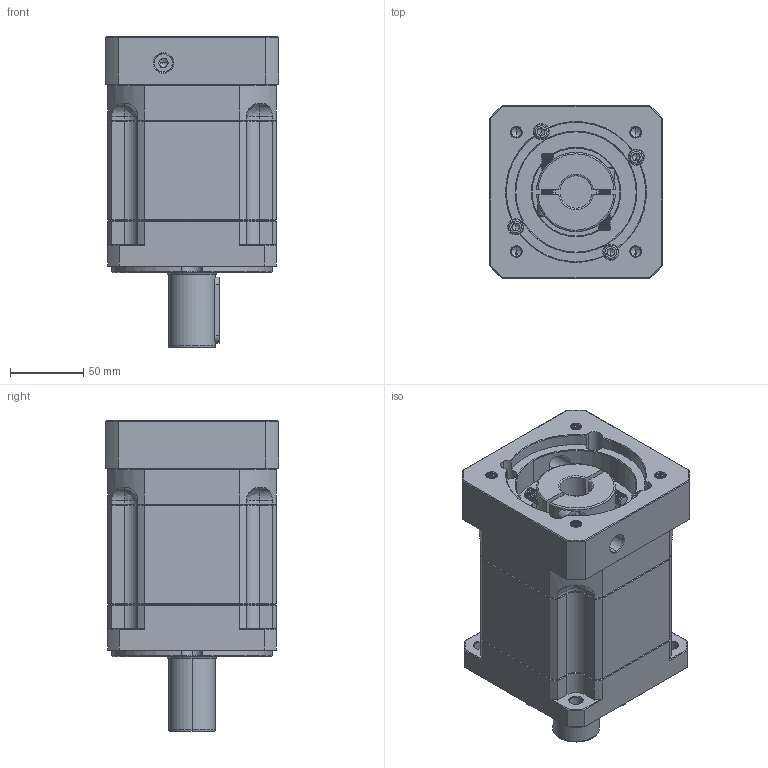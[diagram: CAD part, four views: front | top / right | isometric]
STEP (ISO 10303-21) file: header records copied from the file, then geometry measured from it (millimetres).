
FILE_DESCRIPTION (( 'STEP AP214' ), '1' );
FILE_NAME ('ZB115A-D32-L2-P2-22-95-115-M8.step', '2023-08-26T06:30:48', ( '' ), ( '' ), 'SwSTEP 2.0', 'SolidWorks 2016', '' );
FILE_SCHEMA (( 'AUTOMOTIVE_DESIGN' ));
Length unit declared in the file: millimetre
Products named in the file (1): ZB115A-D32-L2-P2-22-95-115-M8
Bounding box: 118 x 118 x 212 mm (x, y, z)
Volume: 1807797.3 mm3; surface area: 180525.1 mm2
Topology: 6 solids, 6 shells, 2407 faces, 6327 edges, 4016 vertices
Faces by surface type: plane 1144, cylinder 448, bspline 423, cone 372, torus 20
Entity records: 130004 total; most frequent: CARTESIAN_POINT 47768, ORIENTED_EDGE 12586, DIRECTION 9973, EDGE_CURVE 6293, VERTEX_POINT 4016, VECTOR 4001, LINE 4001, AXIS2_PLACEMENT_3D 2986
